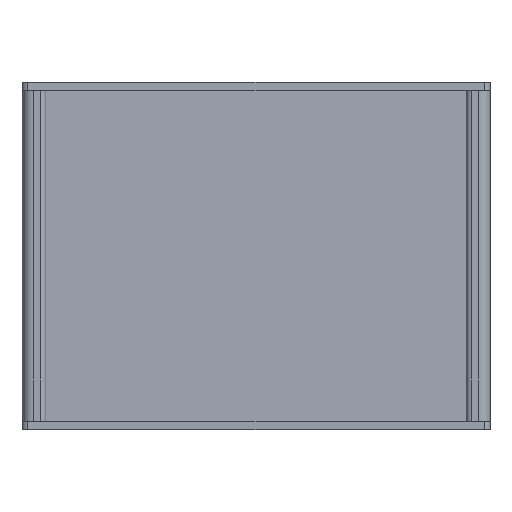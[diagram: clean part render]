
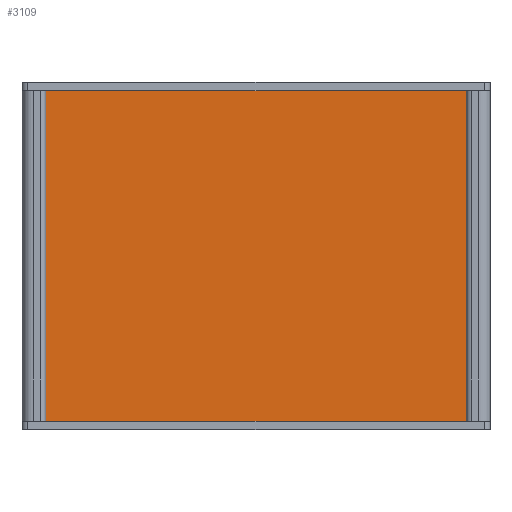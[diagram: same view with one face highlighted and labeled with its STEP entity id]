
A CAD part, top view. The second image highlights one B-rep face of the part: STEP entity #3109.
In plain terms, the highlighted planar face has unit normal (0, 0, 1).
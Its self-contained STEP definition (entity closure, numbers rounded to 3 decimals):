
#68 = LINE ( 'NONE', #2639, #1890 ) ;
#179 = ORIENTED_EDGE ( 'NONE', *, *, #4758, .F. ) ;
#401 = DIRECTION ( 'NONE',  ( 1., 0., 0. ) ) ;
#409 = DIRECTION ( 'NONE',  ( 0., 0., 1. ) ) ;
#427 = PLANE ( 'NONE',  #1491 ) ;
#452 = EDGE_LOOP ( 'NONE', ( #179, #2642, #4221, #1378 ) ) ;
#453 = CARTESIAN_POINT ( 'NONE',  ( -78.4, 216.813, 52.65 ) ) ;
#500 = CARTESIAN_POINT ( 'NONE',  ( -78.4, -60., 52.65 ) ) ;
#1030 = VECTOR ( 'NONE', #1886, 1000. ) ;
#1160 = CARTESIAN_POINT ( 'NONE',  ( 78.4, 216.813, 52.65 ) ) ;
#1254 = LINE ( 'NONE', #3279, #1030 ) ;
#1378 = ORIENTED_EDGE ( 'NONE', *, *, #4774, .F. ) ;
#1491 = AXIS2_PLACEMENT_3D ( 'NONE', #453, #409, #401 ) ;
#1512 = DIRECTION ( 'NONE',  ( 1., 0., 0. ) ) ;
#1522 = DIRECTION ( 'NONE',  ( 0., -1., 0. ) ) ;
#1626 = VERTEX_POINT ( 'NONE', #4498 ) ;
#1884 = CARTESIAN_POINT ( 'NONE',  ( 78.4, -60., 52.65 ) ) ;
#1886 = DIRECTION ( 'NONE',  ( 0., -1., 0. ) ) ;
#1890 = VECTOR ( 'NONE', #3014, 1000. ) ;
#2013 = LINE ( 'NONE', #2270, #3889 ) ;
#2253 = CARTESIAN_POINT ( 'NONE',  ( -78.4, 60., 52.65 ) ) ;
#2270 = CARTESIAN_POINT ( 'NONE',  ( -78.4, 60., 52.65 ) ) ;
#2484 = VERTEX_POINT ( 'NONE', #1884 ) ;
#2639 = CARTESIAN_POINT ( 'NONE',  ( -78.4, -60., 52.65 ) ) ;
#2642 = ORIENTED_EDGE ( 'NONE', *, *, #4750, .T. ) ;
#2882 = LINE ( 'NONE', #1160, #4756 ) ;
#3014 = DIRECTION ( 'NONE',  ( -1., 0., 0. ) ) ;
#3109 = ADVANCED_FACE ( 'NONE', ( #3210 ), #427, .T. ) ;
#3210 = FACE_OUTER_BOUND ( 'NONE', #452, .T. ) ;
#3279 = CARTESIAN_POINT ( 'NONE',  ( -78.4, 216.813, 52.65 ) ) ;
#3530 = VERTEX_POINT ( 'NONE', #500 ) ;
#3715 = VERTEX_POINT ( 'NONE', #2253 ) ;
#3889 = VECTOR ( 'NONE', #1512, 1000. ) ;
#4221 = ORIENTED_EDGE ( 'NONE', *, *, #4767, .F. ) ;
#4498 = CARTESIAN_POINT ( 'NONE',  ( 78.4, 60., 52.65 ) ) ;
#4750 = EDGE_CURVE ( 'NONE', #3715, #3530, #1254, .T. ) ;
#4756 = VECTOR ( 'NONE', #1522, 1000. ) ;
#4758 = EDGE_CURVE ( 'NONE', #3715, #1626, #2013, .T. ) ;
#4767 = EDGE_CURVE ( 'NONE', #2484, #3530, #68, .T. ) ;
#4774 = EDGE_CURVE ( 'NONE', #1626, #2484, #2882, .T. ) ;
